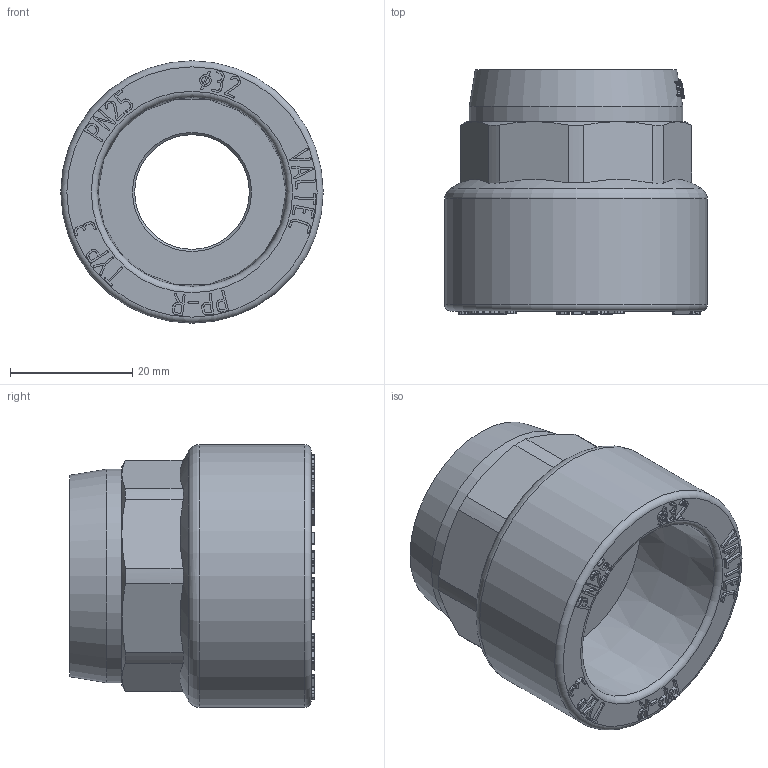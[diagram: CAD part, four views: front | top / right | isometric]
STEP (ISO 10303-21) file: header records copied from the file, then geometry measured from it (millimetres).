
FILE_DESCRIPTION(('STEP AP203'), '1');
FILE_NAME('ÂÐ.753153.012 - VTp.702.0.03204', '', ('UNSPECIFIED'), ('UNSPECIFIED'), 'C3D Converter', 'C3D Toolkit', '');
FILE_SCHEMA(('CONFIG_CONTROL_DESIGN'));
Length unit declared in the file: millimetre
Products named in the file (4): ВР.753153.012; ВР.302639.014.000; ВР.713661.001
Assembly tree (3 placements, depth 3):
  ВР.753153.012
    ВР.302639.014.000
      ВР.713661.001
      (unnamed)
Bounding box: 43 x 40 x 43 mm (x, y, z)
Volume: 29272.5 mm3; surface area: 17011.3 mm2
Topology: 3 solids, 3 shells, 864 faces, 2361 edges, 1570 vertices
Faces by surface type: extrusion 452, plane 327, cylinder 56, cone 21, torus 8
Full cylindrical faces by diameter (mm): 18.8 x1, 19.5 x1, 21.5 x2, 24 x8, 28 x10, 35 x1, 43 x1
Entity records: 30761 total; most frequent: CARTESIAN_POINT 10632, ORIENTED_EDGE 4634, DIRECTION 2746, EDGE_CURVE 2317, VECTOR 1602, VERTEX_POINT 1563, B_SPLINE_CURVE_WITH_KNOTS 1468, LINE 1150
